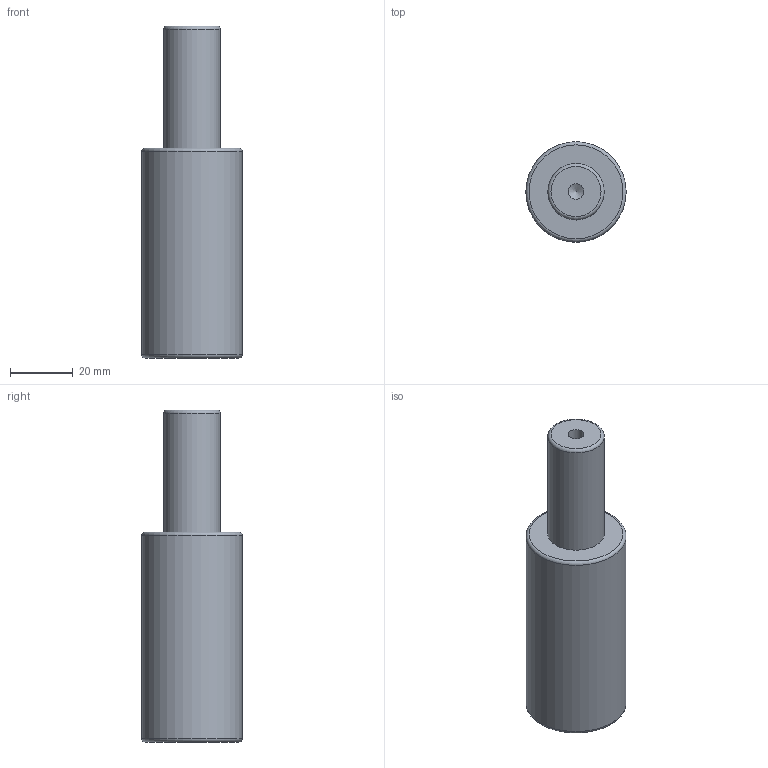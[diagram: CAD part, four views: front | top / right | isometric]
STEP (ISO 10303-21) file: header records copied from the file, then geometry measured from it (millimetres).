
FILE_DESCRIPTION(/* description */ (''),/* implementation_level */ '2;1');
FILE_NAME(/* name */ 'NV5-SMLX.32x38.stp',/* time_stamp */ '2018-08-31T16:08:37+02:00',/* author */ (''),/* organization */ (''),/* preprocessor_version */ 'ST-DEVELOPER v16',/* originating_system */ 'SIEMENS PLM Software NX 10.0',/* authorisation */ '');
FILE_SCHEMA (('AUTOMOTIVE_DESIGN { 1 0 10303 214 3 1 1 1 }'));
Length unit declared in the file: millimetre
Products named in the file (1): NV5-SMLX.32x38
Bounding box: 32 x 32 x 106 mm (x, y, z)
Volume: 63302.9 mm3; surface area: 10789.7 mm2
Topology: 1 solids, 1 shells, 12 faces, 24 edges, 15 vertices
Faces by surface type: cylinder 4, torus 3, plane 3, cone 2
Full cylindrical faces by diameter (mm): 5 x2, 18 x1, 32 x1
Entity records: 266 total; most frequent: DIRECTION 48, CARTESIAN_POINT 37, FACE_BOUND 24, AXIS2_PLACEMENT_3D 24, EDGE_LOOP 22, ORIENTED_EDGE 22, VERTEX_POINT 13, ADVANCED_FACE 12
